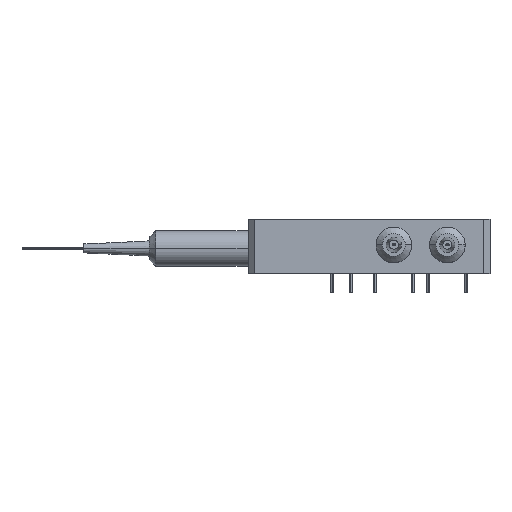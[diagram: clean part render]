
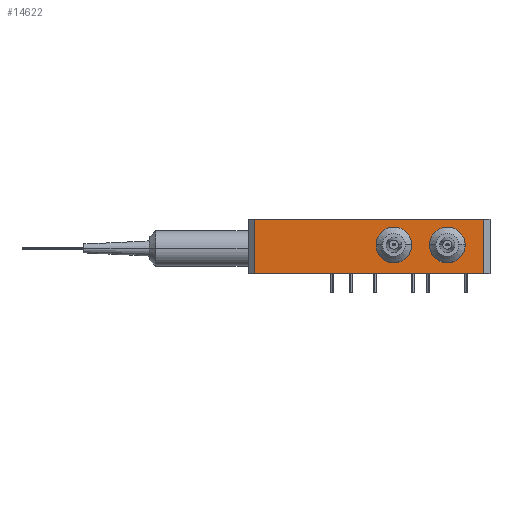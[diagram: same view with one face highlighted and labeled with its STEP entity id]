
A CAD part, top view. The second image highlights one B-rep face of the part: STEP entity #14622.
In plain terms, the highlighted planar face has unit normal (0, 0, 1).
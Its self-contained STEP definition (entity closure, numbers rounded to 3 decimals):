
#169 = DIRECTION ( 'NONE',  ( 1., 0., 0. ) ) ;
#452 = CARTESIAN_POINT ( 'NONE',  ( 31.3, 7.25, 0. ) ) ;
#715 = EDGE_CURVE ( 'NONE', #24654, #13083, #9281, .T. ) ;
#1621 = CARTESIAN_POINT ( 'NONE',  ( 37., 8.5, 0. ) ) ;
#2125 = VERTEX_POINT ( 'NONE', #26074 ) ;
#2534 = DIRECTION ( 'NONE',  ( 0., 0., 1. ) ) ;
#3132 = EDGE_CURVE ( 'NONE', #2125, #8021, #26413, .T. ) ;
#3530 = CIRCLE ( 'NONE', #5523, 2.8 ) ;
#3998 = DIRECTION ( 'NONE',  ( 0., -1., 0. ) ) ;
#4014 = FACE_BOUND ( 'NONE', #24391, .T. ) ;
#4342 = DIRECTION ( 'NONE',  ( 0., 0., 1. ) ) ;
#4397 = CARTESIAN_POINT ( 'NONE',  ( 22.9, 4.45, 0. ) ) ;
#4404 = VERTEX_POINT ( 'NONE', #12202 ) ;
#4602 = CARTESIAN_POINT ( 'NONE',  ( 1., 8.5, 0. ) ) ;
#5523 = AXIS2_PLACEMENT_3D ( 'NONE', #16074, #15921, #6733 ) ;
#6049 = CIRCLE ( 'NONE', #16969, 2.8 ) ;
#6059 = CARTESIAN_POINT ( 'NONE',  ( 22.9, 1.65, 0. ) ) ;
#6516 = VECTOR ( 'NONE', #3998, 1000. ) ;
#6733 = DIRECTION ( 'NONE',  ( 0., -1., 0. ) ) ;
#6897 = VECTOR ( 'NONE', #27244, 1000. ) ;
#6933 = ORIENTED_EDGE ( 'NONE', *, *, #715, .F. ) ;
#8021 = VERTEX_POINT ( 'NONE', #12476 ) ;
#8380 = CARTESIAN_POINT ( 'NONE',  ( 22.9, 4.45, 0. ) ) ;
#8815 = EDGE_CURVE ( 'NONE', #19088, #16368, #23375, .T. ) ;
#9023 = EDGE_CURVE ( 'NONE', #16368, #8021, #25215, .T. ) ;
#9281 = CIRCLE ( 'NONE', #13286, 2.8 ) ;
#9372 = DIRECTION ( 'NONE',  ( 1., 0., 0. ) ) ;
#11579 = FACE_OUTER_BOUND ( 'NONE', #28606, .T. ) ;
#11694 = CARTESIAN_POINT ( 'NONE',  ( 31.3, 4.45, 0. ) ) ;
#12110 = ORIENTED_EDGE ( 'NONE', *, *, #28071, .T. ) ;
#12202 = CARTESIAN_POINT ( 'NONE',  ( 22.9, 7.25, 0. ) ) ;
#12210 = AXIS2_PLACEMENT_3D ( 'NONE', #18458, #27925, #15806 ) ;
#12476 = CARTESIAN_POINT ( 'NONE',  ( 37., 8.5, 0. ) ) ;
#12496 = VECTOR ( 'NONE', #169, 1000. ) ;
#13083 = VERTEX_POINT ( 'NONE', #452 ) ;
#13286 = AXIS2_PLACEMENT_3D ( 'NONE', #11694, #21202, #30657 ) ;
#13474 = PLANE ( 'NONE',  #12210 ) ;
#13810 = VECTOR ( 'NONE', #9372, 1000. ) ;
#14335 = DIRECTION ( 'NONE',  ( 0., -1., 0. ) ) ;
#14622 = ADVANCED_FACE ( 'NONE', ( #23400, #4014, #11579 ), #13474, .F. ) ;
#15717 = CARTESIAN_POINT ( 'NONE',  ( 31.3, 1.65, 0. ) ) ;
#15806 = DIRECTION ( 'NONE',  ( -1., 0., 0. ) ) ;
#15921 = DIRECTION ( 'NONE',  ( 0., 0., 1. ) ) ;
#16003 = DIRECTION ( 'NONE',  ( 0., -1., 0. ) ) ;
#16074 = CARTESIAN_POINT ( 'NONE',  ( 31.3, 4.45, 0. ) ) ;
#16368 = VERTEX_POINT ( 'NONE', #22590 ) ;
#16575 = ORIENTED_EDGE ( 'NONE', *, *, #9023, .T. ) ;
#16969 = AXIS2_PLACEMENT_3D ( 'NONE', #8380, #4342, #16003 ) ;
#18458 = CARTESIAN_POINT ( 'NONE',  ( 0., 8.5, 0. ) ) ;
#18592 = LINE ( 'NONE', #4602, #6516 ) ;
#18597 = EDGE_CURVE ( 'NONE', #20676, #4404, #30202, .T. ) ;
#19088 = VERTEX_POINT ( 'NONE', #24458 ) ;
#20676 = VERTEX_POINT ( 'NONE', #6059 ) ;
#21202 = DIRECTION ( 'NONE',  ( 0., 0., 1. ) ) ;
#22590 = CARTESIAN_POINT ( 'NONE',  ( 37., 0., 0. ) ) ;
#23375 = LINE ( 'NONE', #28514, #13810 ) ;
#23400 = FACE_BOUND ( 'NONE', #26234, .T. ) ;
#24391 = EDGE_LOOP ( 'NONE', ( #28867, #28527 ) ) ;
#24401 = ORIENTED_EDGE ( 'NONE', *, *, #3132, .F. ) ;
#24458 = CARTESIAN_POINT ( 'NONE',  ( 1., 0., 0. ) ) ;
#24654 = VERTEX_POINT ( 'NONE', #15717 ) ;
#25215 = LINE ( 'NONE', #1621, #6897 ) ;
#25814 = ORIENTED_EDGE ( 'NONE', *, *, #28310, .F. ) ;
#26074 = CARTESIAN_POINT ( 'NONE',  ( 1., 8.5, 0. ) ) ;
#26234 = EDGE_LOOP ( 'NONE', ( #6933, #25814 ) ) ;
#26413 = LINE ( 'NONE', #29050, #12496 ) ;
#27244 = DIRECTION ( 'NONE',  ( 0., 1., 0. ) ) ;
#27925 = DIRECTION ( 'NONE',  ( 0., 0., -1. ) ) ;
#28071 = EDGE_CURVE ( 'NONE', #2125, #19088, #18592, .T. ) ;
#28310 = EDGE_CURVE ( 'NONE', #13083, #24654, #3530, .T. ) ;
#28514 = CARTESIAN_POINT ( 'NONE',  ( 0., 0., 0. ) ) ;
#28527 = ORIENTED_EDGE ( 'NONE', *, *, #30097, .F. ) ;
#28606 = EDGE_LOOP ( 'NONE', ( #29760, #16575, #24401, #12110 ) ) ;
#28695 = AXIS2_PLACEMENT_3D ( 'NONE', #4397, #2534, #14335 ) ;
#28867 = ORIENTED_EDGE ( 'NONE', *, *, #18597, .F. ) ;
#29050 = CARTESIAN_POINT ( 'NONE',  ( 0., 8.5, 0. ) ) ;
#29760 = ORIENTED_EDGE ( 'NONE', *, *, #8815, .T. ) ;
#30097 = EDGE_CURVE ( 'NONE', #4404, #20676, #6049, .T. ) ;
#30202 = CIRCLE ( 'NONE', #28695, 2.8 ) ;
#30657 = DIRECTION ( 'NONE',  ( 0., -1., 0. ) ) ;
